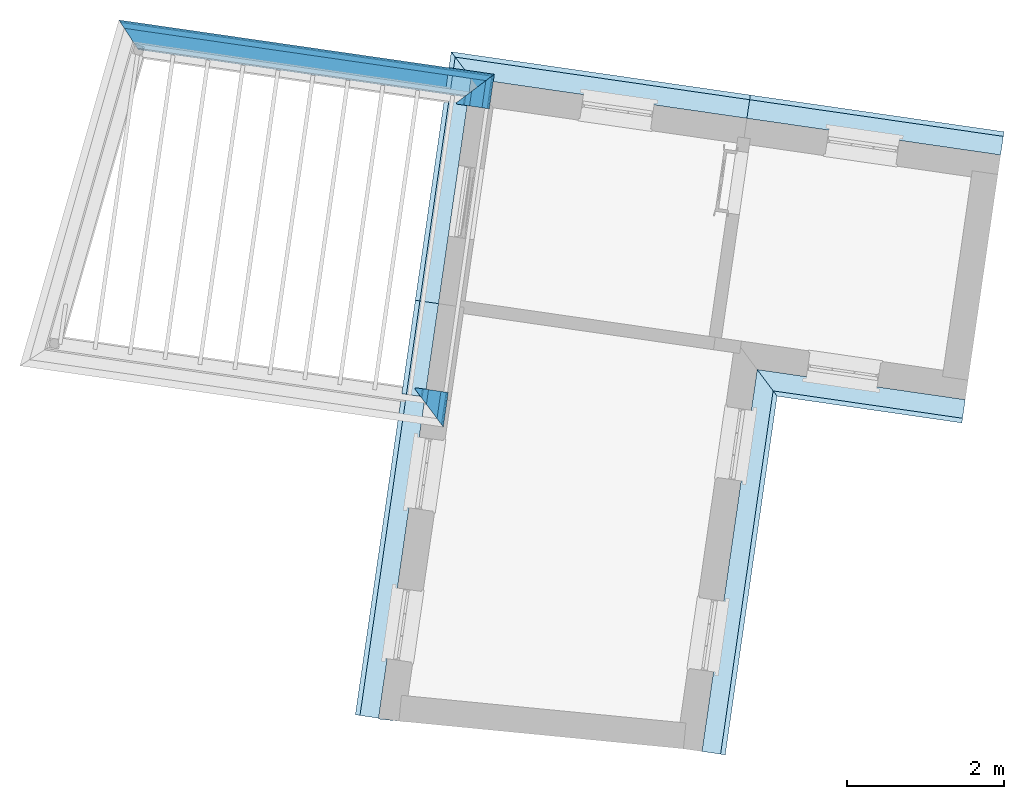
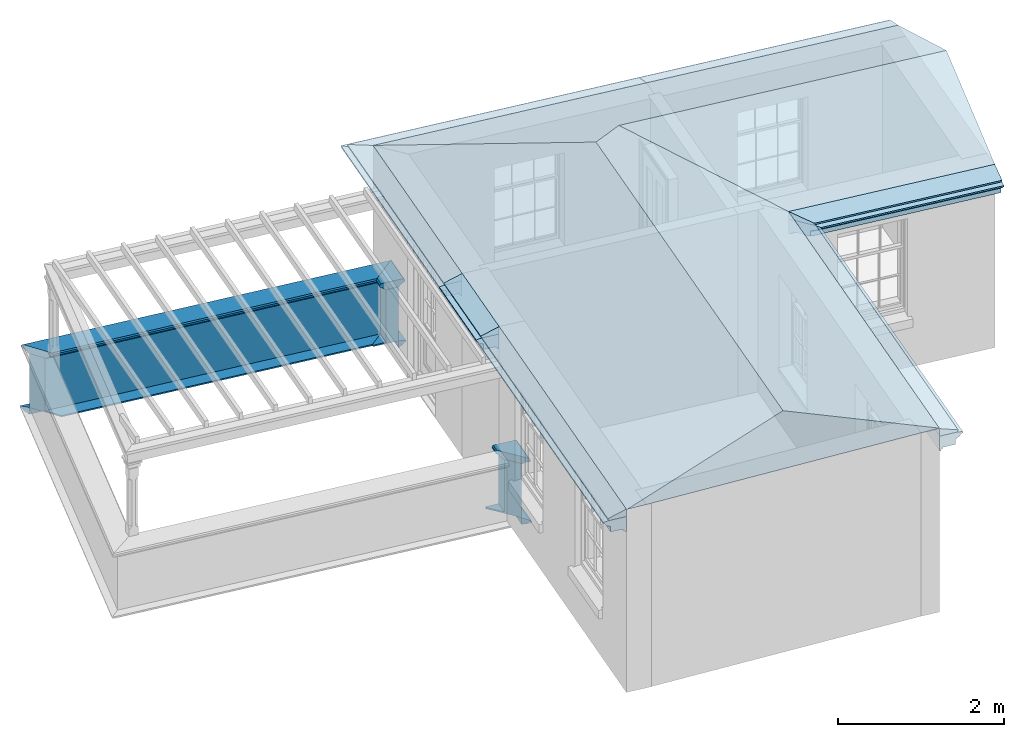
# One storey, part 4 of 4: 15 roofs, 9 walls.
"""IFC4 building model written with IfcOpenShell, lengths in metres."""

from ifc_helpers import new_model, si_unit, frame, origin, origin_with_axes, place, context, subcontext, project, spatial, polyline, outline, extrude, boolean, clip, halfspace, faceted_brep, material_profile, profile_set, profile_usage, type_object, element, save


model = new_model("IFC4")

# Units and contexts
model_context = context("Model", 3, world=origin_with_axes())
body_context = subcontext(model_context, "Body", "Model", "MODEL_VIEW")
ifc_project = project(units=[si_unit("PLANEANGLEUNIT", "RADIAN"), si_unit("MASSUNIT", "GRAM", prefix="KILO"), si_unit("FORCEUNIT", "NEWTON", prefix="KILO"), si_unit("LENGTHUNIT", "METRE"), si_unit("AREAUNIT", "SQUARE_METRE"), si_unit("VOLUMEUNIT", "CUBIC_METRE")], contexts=[model_context, model_context])

# Sites, building, storey
site_1_placement = place(None, origin_with_axes())
site_1 = spatial("IfcSite", under=ifc_project, at=site_1_placement, Name="Tamar")
site_2_placement = place(site_1_placement, origin_with_axes())
site_2 = spatial("IfcSite", under=site_1, at=site_2_placement, Name="Site plot-30", CompositionType="ELEMENT")
building_placement = place(None, origin_with_axes())
building = spatial("IfcBuilding", under=site_2, at=building_placement, Name="Building plot-30", CompositionType="ELEMENT")
storey_placement = place(None, frame((0.0, 0.0, 31.0), z_axis=(0.0, 0.0, 1.0), x_axis=(1.0, 0.0, 0.0)))
storey = spatial("IfcBuildingStorey", under=building, at=storey_placement, Name="plot-30 2", CompositionType="ELEMENT", Elevation=31.0)

# Walls
ifc_material_profile_1 = material_profile(None, outline(polyline([(0.25, 0.0), (0.25, 0.795), (0.09, 0.795), (0.09, 0.02), (-0.08, 0.02), (-0.08, 0.0), (0.25, 0.0)])))
ifc_profile_set_1 = profile_set([ifc_material_profile_1])
ifc_profile_usage_1 = profile_usage(ifc_profile_set_1)
wall_type_1 = type_object("IfcWallType", Name="parapet_0", PredefinedType="PARAPET", material=ifc_profile_set_1)
wall_1_placement = place(storey_placement, frame((286.219631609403, 264.535554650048, 0.0), z_axis=(-0.143119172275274, -0.98970546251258, 0.0), x_axis=(0.98970546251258, -0.143119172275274, 0.0)))
element("IfcWall", 1, at=wall_1_placement, inside=storey, type_object=wall_type_1, material=ifc_profile_usage_1, Name="parapet_0", context=body_context, shape_type="Clipping", body=[
    clip(clip(extrude(outline(polyline([(0.25, 0.0), (0.25, 0.795), (0.09, 0.795), (0.09, 0.02), (-0.08, 0.02), (-0.08, 0.0), (0.25, 0.0)])), origin_with_axes(), (0.0, 0.0, 1.0), 2.10000000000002), halfspace(frame((0.0, 0.0, 1.10000000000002), z_axis=(-2.35979604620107e-14, 0.0, -1.0), x_axis=(0.0, 1.0, 0.0)), True)), halfspace(frame((0.0, 0.0, 1.0), z_axis=(-0.70710678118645, 0.0, -0.707106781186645), x_axis=(0.0, 1.0, 0.0)), False)),
])
ifc_profile_usage_2 = profile_usage(ifc_profile_set_1)
wall_2_placement = place(storey_placement, frame((280.943013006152, 264.288193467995, 0.0), z_axis=(0.989705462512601, -0.143119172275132, 0.0), x_axis=(0.143119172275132, 0.989705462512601, 0.0)))
element("IfcWall", 2, at=wall_2_placement, inside=storey, type_object=wall_type_1, material=ifc_profile_usage_2, Name="parapet_0", context=body_context, shape_type="Clipping", body=[
    clip(clip(extrude(outline(polyline([(0.25, 0.0), (0.25, 0.795), (0.09, 0.795), (0.09, 0.02), (-0.08, 0.02), (-0.08, 0.0), (0.25, 0.0)])), origin_with_axes(), (0.0, 0.0, 1.0), 6.18689612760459), halfspace(frame((0.0, 0.0, 5.18689612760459), z_axis=(0.707106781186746, 0.0, -0.707106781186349), x_axis=(0.0, 1.0, 0.0)), True)), halfspace(frame((0.0, 0.0, 1.0), z_axis=(-0.657774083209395, 0.0, -0.753215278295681), x_axis=(0.0, 1.0, 0.0)), False)),
])
ifc_profile_usage_3 = profile_usage(ifc_profile_set_1)
wall_3_placement = place(storey_placement, frame((285.682652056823, 260.822204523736, 0.0), z_axis=(-0.143119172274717, -0.989705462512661, 0.0), x_axis=(0.989705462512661, -0.143119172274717, 0.0)))
element("IfcWall", 3, at=wall_3_placement, inside=storey, type_object=wall_type_1, material=ifc_profile_usage_3, Name="parapet_0", context=body_context, shape_type="Clipping", body=[
    clip(clip(extrude(outline(polyline([(0.25, 0.0), (0.25, 0.795), (0.09, 0.795), (0.09, 0.02), (-0.08, 0.02), (-0.08, 0.0), (0.25, 0.0)])), origin_with_axes(), (0.0, 0.0, 1.0), 2.10000000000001), halfspace(frame((0.0, 0.0, 1.10000000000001), z_axis=(0.707106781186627, 0.0, -0.707106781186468), x_axis=(0.0, 1.0, 0.0)), True)), halfspace(frame((0.0, 0.0, 1.0), z_axis=(1.63700684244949e-14, 0.0, -1.0), x_axis=(0.0, 1.0, 0.0)), False)),
])
ifc_material_profile_2 = material_profile(None, outline(polyline([(0.265, 0.795), (0.268, 0.807), (0.274, 0.816), (0.283, 0.822), (0.295, 0.825), (0.295, 0.84), (0.305, 0.84), (0.317, 0.842), (0.326, 0.849), (0.333, 0.858), (0.335, 0.87), (0.333, 0.882), (0.326, 0.891), (0.317, 0.898), (0.305, 0.9), (0.035, 0.9), (0.023, 0.898), (0.014, 0.891), (0.007, 0.882), (0.005, 0.87), (0.007, 0.858), (0.014, 0.849), (0.023, 0.842), (0.035, 0.84), (0.045, 0.84), (0.045, 0.825), (0.057, 0.822), (0.066, 0.816), (0.072, 0.807), (0.075, 0.795), (0.265, 0.795)])))
ifc_profile_set_2 = profile_set([ifc_material_profile_2])
ifc_profile_usage_4 = profile_usage(ifc_profile_set_2)
wall_type_2 = type_object("IfcWallType", Name="parapet_1", PredefinedType="PARAPET", material=ifc_profile_set_2)
wall_4_placement = place(storey_placement, frame((286.219631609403, 264.535554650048, 0.0), z_axis=(-0.143119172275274, -0.98970546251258, 0.0), x_axis=(0.98970546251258, -0.143119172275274, 0.0)))
element("IfcWall", 4, at=wall_4_placement, inside=storey, type_object=wall_type_2, material=ifc_profile_usage_4, Name="parapet_1", context=body_context, shape_type="Clipping", body=[
    clip(clip(extrude(outline(polyline([(0.265, 0.795), (0.268, 0.807), (0.274, 0.816), (0.283, 0.822), (0.295, 0.825), (0.295, 0.84), (0.305, 0.84), (0.317, 0.842), (0.326, 0.849), (0.333, 0.858), (0.335, 0.87), (0.333, 0.882), (0.326, 0.891), (0.317, 0.898), (0.305, 0.9), (0.035, 0.9), (0.023, 0.898), (0.014, 0.891), (0.007, 0.882), (0.005, 0.87), (0.007, 0.858), (0.014, 0.849), (0.023, 0.842), (0.035, 0.84), (0.045, 0.84), (0.045, 0.825), (0.057, 0.822), (0.066, 0.816), (0.072, 0.807), (0.075, 0.795), (0.265, 0.795)])), origin_with_axes(), (0.0, 0.0, 1.0), 2.10000000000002), halfspace(frame((0.0, 0.0, 1.10000000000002), z_axis=(-2.35979604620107e-14, 0.0, -1.0), x_axis=(0.0, 1.0, 0.0)), True)), halfspace(frame((0.0, 0.0, 1.0), z_axis=(-0.70710678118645, 0.0, -0.707106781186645), x_axis=(0.0, 1.0, 0.0)), False)),
])
ifc_profile_usage_5 = profile_usage(ifc_profile_set_2)
wall_5_placement = place(storey_placement, frame((280.943013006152, 264.288193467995, 0.0), z_axis=(0.989705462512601, -0.143119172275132, 0.0), x_axis=(0.143119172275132, 0.989705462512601, 0.0)))
element("IfcWall", 5, at=wall_5_placement, inside=storey, type_object=wall_type_2, material=ifc_profile_usage_5, Name="parapet_1", context=body_context, shape_type="Clipping", body=[
    clip(clip(extrude(outline(polyline([(0.265, 0.795), (0.268, 0.807), (0.274, 0.816), (0.283, 0.822), (0.295, 0.825), (0.295, 0.84), (0.305, 0.84), (0.317, 0.842), (0.326, 0.849), (0.333, 0.858), (0.335, 0.87), (0.333, 0.882), (0.326, 0.891), (0.317, 0.898), (0.305, 0.9), (0.035, 0.9), (0.023, 0.898), (0.014, 0.891), (0.007, 0.882), (0.005, 0.87), (0.007, 0.858), (0.014, 0.849), (0.023, 0.842), (0.035, 0.84), (0.045, 0.84), (0.045, 0.825), (0.057, 0.822), (0.066, 0.816), (0.072, 0.807), (0.075, 0.795), (0.265, 0.795)])), origin_with_axes(), (0.0, 0.0, 1.0), 6.18689612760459), halfspace(frame((0.0, 0.0, 5.18689612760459), z_axis=(0.707106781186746, 0.0, -0.707106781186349), x_axis=(0.0, 1.0, 0.0)), True)), halfspace(frame((0.0, 0.0, 1.0), z_axis=(-0.657774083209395, 0.0, -0.753215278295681), x_axis=(0.0, 1.0, 0.0)), False)),
])
ifc_profile_usage_6 = profile_usage(ifc_profile_set_2)
wall_6_placement = place(storey_placement, frame((285.682652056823, 260.822204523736, 0.0), z_axis=(-0.143119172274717, -0.989705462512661, 0.0), x_axis=(0.989705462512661, -0.143119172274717, 0.0)))
element("IfcWall", 6, at=wall_6_placement, inside=storey, type_object=wall_type_2, material=ifc_profile_usage_6, Name="parapet_1", context=body_context, shape_type="Clipping", body=[
    clip(clip(extrude(outline(polyline([(0.265, 0.795), (0.268, 0.807), (0.274, 0.816), (0.283, 0.822), (0.295, 0.825), (0.295, 0.84), (0.305, 0.84), (0.317, 0.842), (0.326, 0.849), (0.333, 0.858), (0.335, 0.87), (0.333, 0.882), (0.326, 0.891), (0.317, 0.898), (0.305, 0.9), (0.035, 0.9), (0.023, 0.898), (0.014, 0.891), (0.007, 0.882), (0.005, 0.87), (0.007, 0.858), (0.014, 0.849), (0.023, 0.842), (0.035, 0.84), (0.045, 0.84), (0.045, 0.825), (0.057, 0.822), (0.066, 0.816), (0.072, 0.807), (0.075, 0.795), (0.265, 0.795)])), origin_with_axes(), (0.0, 0.0, 1.0), 2.10000000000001), halfspace(frame((0.0, 0.0, 1.10000000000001), z_axis=(0.707106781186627, 0.0, -0.707106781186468), x_axis=(0.0, 1.0, 0.0)), True)), halfspace(frame((0.0, 0.0, 1.0), z_axis=(1.63700684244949e-14, 0.0, -1.0), x_axis=(0.0, 1.0, 0.0)), False)),
])
ifc_material_profile_3 = material_profile(None, outline(polyline([(0.25, -0.1), (0.265, -0.1), (0.265, -0.085), (0.278, -0.084), (0.289, -0.081), (0.301, -0.074), (0.309, -0.065), (0.315, -0.055), (0.324, -0.044), (0.334, -0.038), (0.345, -0.035), (0.345, -0.015), (0.25, 0.0), (0.25, -0.1)])))
ifc_profile_set_3 = profile_set([ifc_material_profile_3])
ifc_profile_usage_7 = profile_usage(ifc_profile_set_3)
wall_type_3 = type_object("IfcWallType", Name="parapet_2", PredefinedType="PARAPET", material=ifc_profile_set_3)
wall_7_placement = place(storey_placement, frame((286.219631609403, 264.535554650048, 0.0), z_axis=(-0.143119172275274, -0.98970546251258, 0.0), x_axis=(0.98970546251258, -0.143119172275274, 0.0)))
element("IfcWall", 7, at=wall_7_placement, inside=storey, type_object=wall_type_3, material=ifc_profile_usage_7, Name="parapet_2", context=body_context, shape_type="Clipping", body=[
    clip(clip(extrude(outline(polyline([(0.25, -0.1), (0.265, -0.1), (0.265, -0.085), (0.278, -0.084), (0.289, -0.081), (0.301, -0.074), (0.309, -0.065), (0.315, -0.055), (0.324, -0.044), (0.334, -0.038), (0.345, -0.035), (0.345, -0.015), (0.25, 0.0), (0.25, -0.1)])), origin_with_axes(), (0.0, 0.0, 1.0), 2.10000000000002), halfspace(frame((0.0, 0.0, 1.10000000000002), z_axis=(-2.35979604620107e-14, 0.0, -1.0), x_axis=(0.0, 1.0, 0.0)), True)), halfspace(frame((0.0, 0.0, 1.0), z_axis=(-0.70710678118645, 0.0, -0.707106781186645), x_axis=(0.0, 1.0, 0.0)), False)),
])
ifc_profile_usage_8 = profile_usage(ifc_profile_set_3)
wall_8_placement = place(storey_placement, frame((280.943013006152, 264.288193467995, 0.0), z_axis=(0.989705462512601, -0.143119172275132, 0.0), x_axis=(0.143119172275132, 0.989705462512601, 0.0)))
element("IfcWall", 8, at=wall_8_placement, inside=storey, type_object=wall_type_3, material=ifc_profile_usage_8, Name="parapet_2", context=body_context, shape_type="Clipping", body=[
    clip(clip(extrude(outline(polyline([(0.25, -0.1), (0.265, -0.1), (0.265, -0.085), (0.278, -0.084), (0.289, -0.081), (0.301, -0.074), (0.309, -0.065), (0.315, -0.055), (0.324, -0.044), (0.334, -0.038), (0.345, -0.035), (0.345, -0.015), (0.25, 0.0), (0.25, -0.1)])), origin_with_axes(), (0.0, 0.0, 1.0), 6.18689612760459), halfspace(frame((0.0, 0.0, 5.18689612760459), z_axis=(0.707106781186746, 0.0, -0.707106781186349), x_axis=(0.0, 1.0, 0.0)), True)), halfspace(frame((0.0, 0.0, 1.0), z_axis=(-0.657774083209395, 0.0, -0.753215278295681), x_axis=(0.0, 1.0, 0.0)), False)),
])
ifc_profile_usage_9 = profile_usage(ifc_profile_set_3)
wall_9_placement = place(storey_placement, frame((285.682652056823, 260.822204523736, 0.0), z_axis=(-0.143119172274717, -0.989705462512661, 0.0), x_axis=(0.989705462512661, -0.143119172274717, 0.0)))
element("IfcWall", 9, at=wall_9_placement, inside=storey, type_object=wall_type_3, material=ifc_profile_usage_9, Name="parapet_2", context=body_context, shape_type="Clipping", body=[
    clip(clip(extrude(outline(polyline([(0.25, -0.1), (0.265, -0.1), (0.265, -0.085), (0.278, -0.084), (0.289, -0.081), (0.301, -0.074), (0.309, -0.065), (0.315, -0.055), (0.324, -0.044), (0.334, -0.038), (0.345, -0.035), (0.345, -0.015), (0.25, 0.0), (0.25, -0.1)])), origin_with_axes(), (0.0, 0.0, 1.0), 2.10000000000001), halfspace(frame((0.0, 0.0, 1.10000000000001), z_axis=(0.707106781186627, 0.0, -0.707106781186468), x_axis=(0.0, 1.0, 0.0)), True)), halfspace(frame((0.0, 0.0, 1.0), z_axis=(1.63700684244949e-14, 0.0, -1.0), x_axis=(0.0, 1.0, 0.0)), False)),
])

# Roofs
ifc_material_profile_4 = material_profile(None, outline(polyline([(0.25, -0.11), (0.25, -0.33), (0.265, -0.33), (0.268, -0.318), (0.274, -0.309), (0.283, -0.303), (0.295, -0.3), (0.295, -0.285), (0.455, -0.285), (0.455, -0.205), (0.47, -0.205), (0.47, -0.19), (0.483, -0.189), (0.494, -0.186), (0.506, -0.179), (0.514, -0.17), (0.52, -0.16), (0.529, -0.149), (0.539, -0.143), (0.55, -0.14), (0.55, -0.12), (0.48, -0.11), (0.25, -0.11)])))
ifc_profile_set_4 = profile_set([ifc_material_profile_4])
ifc_profile_usage_10 = profile_usage(ifc_profile_set_4)
roof_type_1 = type_object("IfcRoofType", Name="eaves_0", PredefinedType="FREEFORM", material=ifc_profile_set_4)
roof_1_placement = place(storey_placement, frame((289.748180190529, 261.348344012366, 2.7), z_axis=(-0.143119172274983, -0.989705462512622, 0.0), x_axis=(0.989705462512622, -0.143119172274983, 0.0)))
element("IfcRoof", 10, at=roof_1_placement, inside=storey, type_object=roof_type_1, material=ifc_profile_usage_10, Name="eaves_0", context=body_context, shape_type="Clipping", body=[
    clip(clip(extrude(outline(polyline([(0.25, -0.11), (0.25, -0.33), (0.265, -0.33), (0.268, -0.318), (0.274, -0.309), (0.283, -0.303), (0.295, -0.3), (0.295, -0.285), (0.455, -0.285), (0.455, -0.205), (0.47, -0.205), (0.47, -0.19), (0.483, -0.189), (0.494, -0.186), (0.506, -0.179), (0.514, -0.17), (0.52, -0.16), (0.529, -0.149), (0.539, -0.143), (0.55, -0.14), (0.55, -0.12), (0.48, -0.11), (0.25, -0.11)])), origin_with_axes(), (0.0, 0.0, 1.0), 7.16741889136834), halfspace(frame((0.0, 0.0, 6.16741889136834), z_axis=(8.15441804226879e-15, 0.0, -1.0), x_axis=(0.0, 1.0, 0.0)), True)), halfspace(frame((0.0, 0.0, 1.0), z_axis=(0.707106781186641, 0.0, -0.707106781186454), x_axis=(0.0, 1.0, 0.0)), False)),
])
ifc_profile_usage_11 = profile_usage(ifc_profile_set_4)
roof_2_placement = place(storey_placement, frame((293.493715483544, 259.796308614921, 2.7), z_axis=(-0.98970546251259, 0.143119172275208, 0.0), x_axis=(-0.143119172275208, -0.98970546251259, 0.0)))
element("IfcRoof", 11, at=roof_2_placement, inside=storey, type_object=roof_type_1, material=ifc_profile_usage_11, Name="eaves_0", context=body_context, shape_type="Clipping", body=[
    clip(clip(extrude(outline(polyline([(0.25, -0.11), (0.25, -0.33), (0.265, -0.33), (0.268, -0.318), (0.274, -0.309), (0.283, -0.303), (0.295, -0.3), (0.295, -0.285), (0.455, -0.285), (0.455, -0.205), (0.47, -0.205), (0.47, -0.19), (0.483, -0.189), (0.494, -0.186), (0.506, -0.179), (0.514, -0.17), (0.52, -0.16), (0.529, -0.149), (0.539, -0.143), (0.55, -0.14), (0.55, -0.12), (0.48, -0.11), (0.25, -0.11)])), origin_with_axes(), (0.0, 0.0, 1.0), 4.92910276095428), halfspace(frame((0.0, 0.0, 3.92910276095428), z_axis=(-0.707106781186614, 0.0, -0.707106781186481), x_axis=(0.0, 1.0, 0.0)), True)), halfspace(frame((0.0, 0.0, 1.0), z_axis=(-1.36059532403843e-14, 0.0, -1.0), x_axis=(0.0, 1.0, 0.0)), False)),
])
ifc_material_profile_5 = material_profile(None, outline(polyline([(0.25, -0.11), (0.48, -0.11), (0.49, -0.08), (0.25, 0.0), (0.25, -0.11)])))
ifc_profile_set_5 = profile_set([ifc_material_profile_5])
ifc_profile_usage_12 = profile_usage(ifc_profile_set_5)
roof_type_2 = type_object("IfcRoofType", Name="eaves_1", PredefinedType="FREEFORM", material=ifc_profile_set_5)
roof_3_placement = place(storey_placement, frame((289.748180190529, 261.348344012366, 2.7), z_axis=(-0.143119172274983, -0.989705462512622, 0.0), x_axis=(0.989705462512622, -0.143119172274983, 0.0)))
element("IfcRoof", 12, at=roof_3_placement, inside=storey, type_object=roof_type_2, material=ifc_profile_usage_12, Name="eaves_1", context=body_context, shape_type="Clipping", body=[
    clip(clip(extrude(outline(polyline([(0.25, -0.11), (0.48, -0.11), (0.49, -0.08), (0.25, 0.0), (0.25, -0.11)])), origin_with_axes(), (0.0, 0.0, 1.0), 7.16741889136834), halfspace(frame((0.0, 0.0, 6.16741889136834), z_axis=(8.15441804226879e-15, 0.0, -1.0), x_axis=(0.0, 1.0, 0.0)), True)), halfspace(frame((0.0, 0.0, 1.0), z_axis=(0.707106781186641, 0.0, -0.707106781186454), x_axis=(0.0, 1.0, 0.0)), False)),
])
ifc_profile_usage_13 = profile_usage(ifc_profile_set_5)
roof_4_placement = place(storey_placement, frame((293.493715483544, 259.796308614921, 2.7), z_axis=(-0.98970546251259, 0.143119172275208, 0.0), x_axis=(-0.143119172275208, -0.98970546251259, 0.0)))
element("IfcRoof", 13, at=roof_4_placement, inside=storey, type_object=roof_type_2, material=ifc_profile_usage_13, Name="eaves_1", context=body_context, shape_type="Clipping", body=[
    clip(clip(extrude(outline(polyline([(0.25, -0.11), (0.48, -0.11), (0.49, -0.08), (0.25, 0.0), (0.25, -0.11)])), origin_with_axes(), (0.0, 0.0, 1.0), 4.92910276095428), halfspace(frame((0.0, 0.0, 3.92910276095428), z_axis=(-0.707106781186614, 0.0, -0.707106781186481), x_axis=(0.0, 1.0, 0.0)), True)), halfspace(frame((0.0, 0.0, 1.0), z_axis=(-1.36059532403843e-14, 0.0, -1.0), x_axis=(0.0, 1.0, 0.0)), False)),
])
ifc_material_profile_6 = material_profile(None, outline(polyline([(0.25, -0.11), (0.25, -0.33), (0.265, -0.33), (0.268, -0.318), (0.274, -0.309), (0.283, -0.303), (0.295, -0.3), (0.295, -0.285), (0.455, -0.285), (0.455, -0.205), (0.47, -0.205), (0.47, -0.19), (0.483, -0.189), (0.494, -0.186), (0.506, -0.179), (0.514, -0.17), (0.52, -0.16), (0.529, -0.149), (0.539, -0.143), (0.55, -0.14), (0.55, -0.12), (0.48, -0.11), (0.25, -0.11)])))
ifc_profile_set_6 = profile_set([ifc_material_profile_6])
ifc_profile_usage_14 = profile_usage(ifc_profile_set_6)
roof_type_3 = type_object("IfcRoofType", Name="eaves_0", PredefinedType="FREEFORM", material=ifc_profile_set_6)
roof_5_placement = place(storey_placement, frame((288.66065057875, 263.172162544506, 2.7), z_axis=(0.989705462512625, -0.143119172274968, 0.0), x_axis=(0.143119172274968, 0.989705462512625, 0.0)))
element("IfcRoof", 14, at=roof_5_placement, inside=storey, type_object=roof_type_3, material=ifc_profile_usage_14, Name="eaves_0", context=body_context, shape_type="Clipping", body=[
    clip(clip(extrude(outline(polyline([(0.25, -0.11), (0.25, -0.33), (0.265, -0.33), (0.268, -0.318), (0.274, -0.309), (0.283, -0.303), (0.295, -0.3), (0.295, -0.285), (0.455, -0.285), (0.455, -0.205), (0.47, -0.205), (0.47, -0.19), (0.483, -0.189), (0.494, -0.186), (0.506, -0.179), (0.514, -0.17), (0.52, -0.16), (0.529, -0.149), (0.539, -0.143), (0.55, -0.14), (0.55, -0.12), (0.48, -0.11), (0.25, -0.11)])), origin_with_axes(), (0.0, 0.0, 1.0), 5.26646015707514), halfspace(frame((0.0, 0.0, 4.26646015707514), z_axis=(-4.50212443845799e-15, 0.0, -1.0), x_axis=(0.0, 1.0, 0.0)), True)), halfspace(frame((0.0, 0.0, 1.0), z_axis=(-4.50212443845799e-15, 0.0, -1.0), x_axis=(0.0, 1.0, 0.0)), False)),
])
ifc_profile_usage_15 = profile_usage(ifc_profile_set_6)
roof_6_placement = place(storey_placement, frame((285.393615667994, 263.644601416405, 2.7), z_axis=(0.989705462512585, -0.143119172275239, 0.0), x_axis=(0.143119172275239, 0.989705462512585, 0.0)))
element("IfcRoof", 15, at=roof_6_placement, inside=storey, type_object=roof_type_3, material=ifc_profile_usage_15, Name="eaves_0", context=body_context, shape_type="Clipping", body=[
    clip(clip(extrude(outline(polyline([(0.25, -0.11), (0.25, -0.33), (0.265, -0.33), (0.268, -0.318), (0.274, -0.309), (0.283, -0.303), (0.295, -0.3), (0.295, -0.285), (0.455, -0.285), (0.455, -0.205), (0.47, -0.205), (0.47, -0.19), (0.483, -0.189), (0.494, -0.186), (0.506, -0.179), (0.514, -0.17), (0.52, -0.16), (0.529, -0.149), (0.539, -0.143), (0.55, -0.14), (0.55, -0.12), (0.48, -0.11), (0.25, -0.11)])), origin_with_axes(), (0.0, 0.0, 1.0), 5.30101735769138), halfspace(frame((0.0, 0.0, 4.30101735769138), z_axis=(-2.78949256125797e-13, 0.0, -1.0), x_axis=(0.0, 1.0, 0.0)), True)), halfspace(frame((0.0, 0.0, 1.0), z_axis=(-0.707106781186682, 0.0, -0.707106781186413), x_axis=(0.0, 1.0, 0.0)), False)),
])
ifc_profile_usage_16 = profile_usage(ifc_profile_set_6)
roof_7_placement = place(storey_placement, frame((285.861022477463, 259.889654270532, 2.7), z_axis=(0.143119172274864, 0.98970546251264, 0.0), x_axis=(-0.98970546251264, 0.143119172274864, 0.0)))
element("IfcRoof", 16, at=roof_7_placement, inside=storey, type_object=roof_type_3, material=ifc_profile_usage_16, Name="eaves_0", context=body_context, shape_type="Clipping", body=[
    clip(clip(extrude(outline(polyline([(0.25, -0.11), (0.25, -0.33), (0.265, -0.33), (0.268, -0.318), (0.274, -0.309), (0.283, -0.303), (0.295, -0.3), (0.295, -0.285), (0.455, -0.285), (0.455, -0.205), (0.47, -0.205), (0.47, -0.19), (0.483, -0.189), (0.494, -0.186), (0.506, -0.179), (0.514, -0.17), (0.52, -0.16), (0.529, -0.149), (0.539, -0.143), (0.55, -0.14), (0.55, -0.12), (0.48, -0.11), (0.25, -0.11)])), origin_with_axes(), (0.0, 0.0, 1.0), 4.64939682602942), halfspace(frame((0.0, 0.0, 3.64939682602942), z_axis=(0.707106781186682, 0.0, -0.707106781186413), x_axis=(0.0, 1.0, 0.0)), True)), halfspace(frame((0.0, 0.0, 1.0), z_axis=(-1.1607551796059e-14, 0.0, -1.0), x_axis=(0.0, 1.0, 0.0)), False)),
])
ifc_profile_usage_17 = profile_usage(ifc_profile_set_6)
roof_8_placement = place(storey_placement, frame((285.688910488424, 258.699456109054, 2.7), z_axis=(0.14311917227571, 0.989705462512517, 0.0), x_axis=(-0.989705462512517, 0.14311917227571, 0.0)))
element("IfcRoof", 17, at=roof_8_placement, inside=storey, type_object=roof_type_3, material=ifc_profile_usage_17, Name="eaves_0", context=body_context, shape_type="Clipping", body=[
    clip(clip(extrude(outline(polyline([(0.25, -0.11), (0.25, -0.33), (0.265, -0.33), (0.268, -0.318), (0.274, -0.309), (0.283, -0.303), (0.295, -0.3), (0.295, -0.285), (0.455, -0.285), (0.455, -0.205), (0.47, -0.205), (0.47, -0.19), (0.483, -0.189), (0.494, -0.186), (0.506, -0.179), (0.514, -0.17), (0.52, -0.16), (0.529, -0.149), (0.539, -0.143), (0.55, -0.14), (0.55, -0.12), (0.48, -0.11), (0.25, -0.11)])), origin_with_axes(), (0.0, 0.0, 1.0), 3.20257814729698), halfspace(frame((0.0, 0.0, 2.20257814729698), z_axis=(-8.6692336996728e-13, 0.0, -1.0), x_axis=(0.0, 1.0, 0.0)), True)), halfspace(frame((0.0, 0.0, 1.0), z_axis=(-6.27848127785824e-15, 0.0, -1.0), x_axis=(0.0, 1.0, 0.0)), False)),
])
ifc_profile_usage_18 = profile_usage(ifc_profile_set_6)
roof_9_placement = place(storey_placement, frame((285.097152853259, 254.607301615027, 2.7), z_axis=(0.14311917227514, 0.9897054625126, 0.0), x_axis=(-0.9897054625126, 0.14311917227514, 0.0)))
element("IfcRoof", 18, at=roof_9_placement, inside=storey, type_object=roof_type_3, material=ifc_profile_usage_18, Name="eaves_0", context=body_context, shape_type="Clipping", body=[
    clip(clip(extrude(outline(polyline([(0.25, -0.11), (0.25, -0.33), (0.265, -0.33), (0.268, -0.318), (0.274, -0.309), (0.283, -0.303), (0.295, -0.3), (0.295, -0.285), (0.455, -0.285), (0.455, -0.205), (0.47, -0.205), (0.47, -0.19), (0.483, -0.189), (0.494, -0.186), (0.506, -0.179), (0.514, -0.17), (0.52, -0.16), (0.529, -0.149), (0.539, -0.143), (0.55, -0.14), (0.55, -0.12), (0.48, -0.11), (0.25, -0.11)])), origin_with_axes(), (0.0, 0.0, 1.0), 6.1347195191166), halfspace(frame((0.0, 0.0, 5.1347195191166), z_axis=(5.69261134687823e-13, 0.0, -1.0), x_axis=(0.0, 1.0, 0.0)), True)), halfspace(frame((0.0, 0.0, 1.0), z_axis=(-1.83758917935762e-15, 0.0, -1.0), x_axis=(0.0, 1.0, 0.0)), False)),
])
ifc_material_profile_7 = material_profile(None, outline(polyline([(0.25, -0.11), (0.48, -0.11), (0.49, -0.08), (0.25, 0.0), (0.25, -0.11)])))
ifc_profile_set_7 = profile_set([ifc_material_profile_7])
ifc_profile_usage_19 = profile_usage(ifc_profile_set_7)
roof_type_4 = type_object("IfcRoofType", Name="eaves_1", PredefinedType="FREEFORM", material=ifc_profile_set_7)
roof_10_placement = place(storey_placement, frame((288.66065057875, 263.172162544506, 2.7), z_axis=(0.989705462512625, -0.143119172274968, 0.0), x_axis=(0.143119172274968, 0.989705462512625, 0.0)))
element("IfcRoof", 19, at=roof_10_placement, inside=storey, type_object=roof_type_4, material=ifc_profile_usage_19, Name="eaves_1", context=body_context, shape_type="Clipping", body=[
    clip(clip(extrude(outline(polyline([(0.25, -0.11), (0.48, -0.11), (0.49, -0.08), (0.25, 0.0), (0.25, -0.11)])), origin_with_axes(), (0.0, 0.0, 1.0), 5.26646015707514), halfspace(frame((0.0, 0.0, 4.26646015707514), z_axis=(-4.50212443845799e-15, 0.0, -1.0), x_axis=(0.0, 1.0, 0.0)), True)), halfspace(frame((0.0, 0.0, 1.0), z_axis=(-4.50212443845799e-15, 0.0, -1.0), x_axis=(0.0, 1.0, 0.0)), False)),
])
ifc_profile_usage_20 = profile_usage(ifc_profile_set_7)
roof_11_placement = place(storey_placement, frame((285.393615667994, 263.644601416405, 2.7), z_axis=(0.989705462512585, -0.143119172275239, 0.0), x_axis=(0.143119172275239, 0.989705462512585, 0.0)))
element("IfcRoof", 20, at=roof_11_placement, inside=storey, type_object=roof_type_4, material=ifc_profile_usage_20, Name="eaves_1", context=body_context, shape_type="Clipping", body=[
    clip(clip(extrude(outline(polyline([(0.25, -0.11), (0.48, -0.11), (0.49, -0.08), (0.25, 0.0), (0.25, -0.11)])), origin_with_axes(), (0.0, 0.0, 1.0), 5.30101735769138), halfspace(frame((0.0, 0.0, 4.30101735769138), z_axis=(-2.78949256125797e-13, 0.0, -1.0), x_axis=(0.0, 1.0, 0.0)), True)), halfspace(frame((0.0, 0.0, 1.0), z_axis=(-0.707106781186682, 0.0, -0.707106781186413), x_axis=(0.0, 1.0, 0.0)), False)),
])
ifc_profile_usage_21 = profile_usage(ifc_profile_set_7)
roof_12_placement = place(storey_placement, frame((285.861022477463, 259.889654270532, 2.7), z_axis=(0.143119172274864, 0.98970546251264, 0.0), x_axis=(-0.98970546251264, 0.143119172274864, 0.0)))
element("IfcRoof", 21, at=roof_12_placement, inside=storey, type_object=roof_type_4, material=ifc_profile_usage_21, Name="eaves_1", context=body_context, shape_type="Clipping", body=[
    clip(clip(extrude(outline(polyline([(0.25, -0.11), (0.48, -0.11), (0.49, -0.08), (0.25, 0.0), (0.25, -0.11)])), origin_with_axes(), (0.0, 0.0, 1.0), 4.64939682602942), halfspace(frame((0.0, 0.0, 3.64939682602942), z_axis=(0.707106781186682, 0.0, -0.707106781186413), x_axis=(0.0, 1.0, 0.0)), True)), halfspace(frame((0.0, 0.0, 1.0), z_axis=(-1.1607551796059e-14, 0.0, -1.0), x_axis=(0.0, 1.0, 0.0)), False)),
])
ifc_profile_usage_22 = profile_usage(ifc_profile_set_7)
roof_13_placement = place(storey_placement, frame((285.688910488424, 258.699456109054, 2.7), z_axis=(0.14311917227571, 0.989705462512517, 0.0), x_axis=(-0.989705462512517, 0.14311917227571, 0.0)))
element("IfcRoof", 22, at=roof_13_placement, inside=storey, type_object=roof_type_4, material=ifc_profile_usage_22, Name="eaves_1", context=body_context, shape_type="Clipping", body=[
    clip(clip(extrude(outline(polyline([(0.25, -0.11), (0.48, -0.11), (0.49, -0.08), (0.25, 0.0), (0.25, -0.11)])), origin_with_axes(), (0.0, 0.0, 1.0), 3.20257814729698), halfspace(frame((0.0, 0.0, 2.20257814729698), z_axis=(-8.6692336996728e-13, 0.0, -1.0), x_axis=(0.0, 1.0, 0.0)), True)), halfspace(frame((0.0, 0.0, 1.0), z_axis=(-6.27848127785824e-15, 0.0, -1.0), x_axis=(0.0, 1.0, 0.0)), False)),
])
ifc_profile_usage_23 = profile_usage(ifc_profile_set_7)
roof_14_placement = place(storey_placement, frame((285.097152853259, 254.607301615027, 2.7), z_axis=(0.14311917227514, 0.9897054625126, 0.0), x_axis=(-0.9897054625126, 0.14311917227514, 0.0)))
element("IfcRoof", 23, at=roof_14_placement, inside=storey, type_object=roof_type_4, material=ifc_profile_usage_23, Name="eaves_1", context=body_context, shape_type="Clipping", body=[
    clip(clip(extrude(outline(polyline([(0.25, -0.11), (0.48, -0.11), (0.49, -0.08), (0.25, 0.0), (0.25, -0.11)])), origin_with_axes(), (0.0, 0.0, 1.0), 6.1347195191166), halfspace(frame((0.0, 0.0, 5.1347195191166), z_axis=(5.69261134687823e-13, 0.0, -1.0), x_axis=(0.0, 1.0, 0.0)), True)), halfspace(frame((0.0, 0.0, 1.0), z_axis=(-1.83758917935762e-15, 0.0, -1.0), x_axis=(0.0, 1.0, 0.0)), False)),
])
roof_15_placement = place(building_placement, origin())
element("IfcRoof", 24, at=roof_15_placement, inside=storey, Name="Roof", PredefinedType="FREEFORM", context=body_context, shape_type="CSG", body=[
    boolean("UNION", faceted_brep([(286.171675, 263.784688, 33.7), (284.991136, 255.620965, 33.7), (287.052849, 255.420442, 34.557085), (287.92342, 261.440662, 34.557085), (289.114562, 255.219919, 33.7), (290.267447, 263.192408, 33.7)], [[[0, 1, 2, 3]], [[4, 5, 3, 2]], [[5, 4, 1, 0]], [[5, 0, 3]], [[1, 4, 2]]]), faceted_brep([(285.720935, 260.667713, 33.7), (292.46823, 259.692001, 33.7), (292.6936, 261.250489, 34.352261), (287.504793, 262.000831, 34.352261), (292.918969, 262.808977, 33.7), (286.171675, 263.784688, 33.7)], [[[0, 1, 2, 3]], [[4, 5, 3, 2]], [[5, 4, 1, 0]], [[5, 0, 3]], [[1, 4, 2]]])),
])

save(model, "model.ifc")
